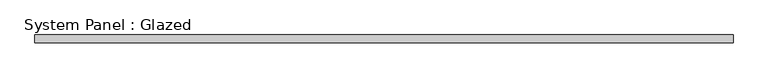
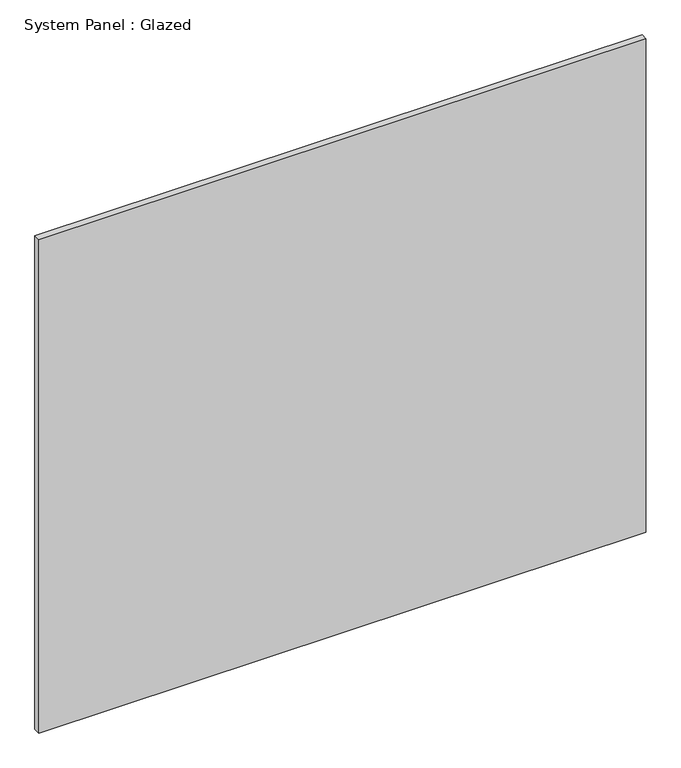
"""IFC4 building model written with IfcOpenShell, lengths in millimetres: plate geometry, System Panel : Glazed."""

import ifcopenshell
import ifcopenshell.guid

model = None  # the IFC model being written
_history = None  # IfcOwnerHistory: only IFC2X3 demands one
_inside = {}  # id of a spatial element -> (the spatial element, [elements in it])
_under = {}  # id of a project, library or spatial element -> (it, [spatial elements below it])
_declared = {}  # id of a project -> (the project, [libraries it declares])
_typed = {}  # id of a type object -> (the type object, [elements of that type])
_made_of = {}  # id of a material, layer set ... -> (it, [elements and type objects made of it])


def new_model(schema):
    """Start an empty IFC model of exactly this schema.

    Asked for "IFC4X3", IfcOpenShell would pick the latest addendum, in which some entities
    have other attributes; the version numbers below select the first issue.
    IFC2X3 requires an IfcOwnerHistory on every rooted entity: one is made here for all.
    """
    global model, _history
    if schema == "IFC4X3":
        model = ifcopenshell.file(schema_version=(4, 3, 0, 0))
    else:
        model = ifcopenshell.file(schema=schema)
    _inside.clear()
    _under.clear()
    _declared.clear()
    _typed.clear()
    _made_of.clear()
    _history = None
    if model.schema == "IFC2X3":
        org = make("IfcOrganization", Name="unknown")
        user = make(
            "IfcPersonAndOrganization",
            ThePerson=make("IfcPerson", FamilyName="unknown"),
            TheOrganization=org,
        )
        app = make(
            "IfcApplication",
            ApplicationDeveloper=org,
            Version="unknown",
            ApplicationFullName="unknown",
            ApplicationIdentifier="unknown",
        )
        _history = make(
            "IfcOwnerHistory",
            OwningUser=user,
            OwningApplication=app,
            ChangeAction="ADDED",
            CreationDate=0,
        )
    return model


def make(cls, **values):
    """One entity of the class cls with the attributes given. An attribute that is None is left unset."""
    return model.create_entity(
        cls, **{name: value for name, value in values.items() if value is not None}
    )


def rooted(cls, **values):
    """An entity with a GlobalId (a new one), such as an element, a storey or a relation."""
    return make(cls, GlobalId=ifcopenshell.guid.new(), OwnerHistory=_history, **values)


def si_unit(unit_type, name, prefix=None):
    """IfcSIUnit, for example si_unit("LENGTHUNIT", "METRE", prefix="MILLI")."""
    return make("IfcSIUnit", UnitType=unit_type, Prefix=prefix, Name=name)


def assignment(units):
    """IfcUnitAssignment: the units of a project."""
    return None if units is None else make("IfcUnitAssignment", Units=units)


def point(xyz):
    """IfcCartesianPoint."""
    return None if xyz is None else make("IfcCartesianPoint", Coordinates=xyz)


def direction(xyz):
    """IfcDirection."""
    return None if xyz is None else make("IfcDirection", DirectionRatios=xyz)


def frame(location, z_axis=None, x_axis=None):
    """IfcAxis2Placement3D, a coordinate frame: its origin and axes. An axis left out is left unset."""
    return make(
        "IfcAxis2Placement3D",
        Location=point(location),
        Axis=direction(z_axis),
        RefDirection=direction(x_axis),
    )


def origin():
    """The frame at (0, 0, 0) with its axes left unset."""
    return frame((0.0, 0.0, 0.0))


def origin_with_axes():
    """The frame at (0, 0, 0) with the z axis (0, 0, 1) and the x axis (1, 0, 0) written out."""
    return frame((0.0, 0.0, 0.0), z_axis=(0.0, 0.0, 1.0), x_axis=(1.0, 0.0, 0.0))


def place(relative_to, where):
    """IfcLocalPlacement: puts the frame where relative to a parent placement (None: the world)."""
    return make(
        "IfcLocalPlacement", PlacementRelTo=relative_to, RelativePlacement=where
    )


def context(
    kind, dimensions, precision=None, world=None, true_north=None, identifier=None
):
    """IfcGeometricRepresentationContext, for example the 3D "Model" context."""
    return make(
        "IfcGeometricRepresentationContext",
        ContextIdentifier=identifier,
        ContextType=kind,
        CoordinateSpaceDimension=dimensions,
        Precision=precision,
        WorldCoordinateSystem=world,
        TrueNorth=true_north,
    )


def project(units=None, contexts=None):
    """IfcProject with its units and contexts."""
    return rooted(
        "IfcProject",
        Name="project",
        RepresentationContexts=contexts,
        UnitsInContext=assignment(units),
    )


def spatial(cls, under=None, at=None, **own):
    """A site, building, storey or space (cls), placed at a placement, below another one or the project."""
    s = rooted(cls, ObjectPlacement=at, **own)
    if under is not None:
        _under.setdefault(under.id(), (under, []))[1].append(s)
    return s


def polyline(points):
    """IfcPolyline through the points."""
    return make("IfcPolyline", Points=[point(p) for p in points])


def outline(outer, holes=None, kind="AREA"):
    """IfcArbitraryClosedProfileDef: a profile drawn as a closed curve; with holes, ...WithVoids."""
    if holes is None:
        return make("IfcArbitraryClosedProfileDef", ProfileType=kind, OuterCurve=outer)
    return make(
        "IfcArbitraryProfileDefWithVoids",
        ProfileType=kind,
        OuterCurve=outer,
        InnerCurves=holes,
    )


def extrude(swept, where, along, depth):
    """IfcExtrudedAreaSolid: the profile swept, set in the frame where, extruded along a direction by depth."""
    return make(
        "IfcExtrudedAreaSolid",
        SweptArea=swept,
        Position=where,
        ExtrudedDirection=direction(along),
        Depth=depth,
    )


def shape(context_of_items, identifier, shape_type, items):
    """IfcShapeRepresentation: the items that make up one representation, for example the "Body"."""
    return make(
        "IfcShapeRepresentation",
        ContextOfItems=context_of_items,
        RepresentationIdentifier=identifier,
        RepresentationType=shape_type,
        Items=items,
    )


def source(mapping_origin, context_of_items, identifier, shape_type, items):
    """IfcRepresentationMap: a shape defined once, which mapped items show again and again."""
    return make(
        "IfcRepresentationMap",
        MappingOrigin=mapping_origin,
        MappedRepresentation=shape(context_of_items, identifier, shape_type, items),
    )


def transform(
    local_origin,
    x_axis=None,
    y_axis=None,
    z_axis=None,
    scale=None,
    scale2=None,
    scale3=None,
    uniform=True,
):
    """IfcCartesianTransformationOperator3D, or its non-uniform kind. x_axis, y_axis, z_axis: its Axis1, 2, 3."""
    if uniform:
        return make(
            "IfcCartesianTransformationOperator3D",
            Axis1=direction(x_axis),
            Axis2=direction(y_axis),
            LocalOrigin=point(local_origin),
            Scale=scale,
            Axis3=direction(z_axis),
        )
    return make(
        "IfcCartesianTransformationOperator3DnonUniform",
        Axis1=direction(x_axis),
        Axis2=direction(y_axis),
        LocalOrigin=point(local_origin),
        Scale=scale,
        Axis3=direction(z_axis),
        Scale2=scale2,
        Scale3=scale3,
    )


def mapped(mapping_source, mapping_target):
    """IfcMappedItem: shows the shape of a source again, moved by a transform."""
    return make(
        "IfcMappedItem", MappingSource=mapping_source, MappingTarget=mapping_target
    )


def made_of(thing, what):
    """Note that an element or type object is made of a material, layer set ...; save() writes the relation."""
    if what is not None:
        _made_of.setdefault(what.id(), (what, []))[1].append(thing)
    return thing


def element(
    cls,
    number,
    at=None,
    inside=None,
    cuts=None,
    type_object=None,
    material=None,
    context=None,
    identifier="Body",
    shape_type=None,
    held_by="IfcProductDefinitionShape",
    body=None,
    shapes=None,
    **own,
):
    """One element of the class cls, such as IfcWall. Its Tag is "e" and its number.

    at: its placement. inside: the storey or other place that contains it. cuts: it is an
    opening in that element (IfcRelVoidsElement). A single representation is given by context,
    identifier, shape_type and body (its items); several are given by shapes. held_by: the class
    of the entity that holds the representations. save() writes the other relations.
    """
    e = rooted(cls, Tag="e%d" % number, ObjectPlacement=at, **own)
    if body is not None:
        shapes = [shape(context, identifier, shape_type, body)]
    if shapes is not None:
        e.Representation = make(held_by, Representations=shapes)
    if inside is not None:
        _inside.setdefault(inside.id(), (inside, []))[1].append(e)
    if cuts is not None:
        rooted(
            "IfcRelVoidsElement", RelatingBuildingElement=cuts, RelatedOpeningElement=e
        )
    if type_object is not None:
        _typed.setdefault(type_object.id(), (type_object, []))[1].append(e)
    return made_of(e, material)


def aggregate(whole, parts):
    """IfcRelAggregates: a whole, such as a stair, and the parts it consists of."""
    return rooted("IfcRelAggregates", RelatingObject=whole, RelatedObjects=parts)


def save(model, path):
    """Write the relations noted so far, then the file.

    IfcRelAggregates (storeys below a building ...), IfcRelContainedInSpatialStructure (elements
    in a storey), IfcRelDefinesByType, IfcRelAssociatesMaterial and IfcRelDeclares: one each for
    every whole, place, type object, material and project.
    """
    for whole, parts in _under.values():
        aggregate(whole, parts)
    for where, things in _inside.values():
        rooted(
            "IfcRelContainedInSpatialStructure",
            RelatedElements=things,
            RelatingStructure=where,
        )
    for kind, things in _typed.values():
        rooted("IfcRelDefinesByType", RelatedObjects=things, RelatingType=kind)
    for what, things in _made_of.values():
        rooted("IfcRelAssociatesMaterial", RelatedObjects=things, RelatingMaterial=what)
    for by, libraries in _declared.values():
        rooted("IfcRelDeclares", RelatingContext=by, RelatedDefinitions=libraries)
    model.write(path)


def system_panel_glazed_4c331233(model_context):
    return source(origin(), model_context, "Body", "SweptSolid", [
        extrude(outline(polyline([(1153.3070958, 19.05), (-1153.3070958, 19.05), (-1153.3070958, 44.45), (1153.3070958, 44.45), (1153.3070958, 19.05)])), origin_with_axes(), (0.0, 0.0, 1.0), 1981.2),
    ])


if __name__ == "__main__":
    model = new_model("IFC4")
    model_context = context("Model", 3, world=origin())
    ifc_project = project(units=[si_unit("LENGTHUNIT", "METRE", prefix="MILLI")], contexts=[model_context])
    site = spatial("IfcSite", under=ifc_project)
    building = spatial("IfcBuilding", under=site)
    placement = place(None, origin())
    system_panel_glazed_shape = system_panel_glazed_4c331233(model_context)
    element("IfcPlate", 1, ObjectType="System Panel : Glazed", at=placement, inside=building, context=model_context, shape_type="MappedRepresentation", body=[
        mapped(system_panel_glazed_shape, transform((0.0, 0.0, 0.0), x_axis=(1.0, 0.0, 0.0), y_axis=(0.0, 1.0, 0.0), z_axis=(0.0, 0.0, 1.0))),
    ])
    save(model, "model.ifc")
